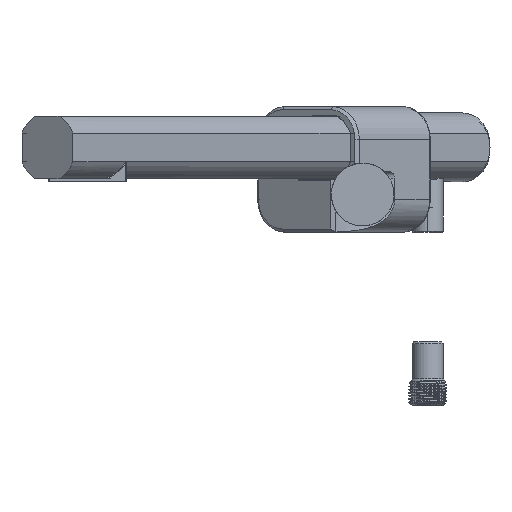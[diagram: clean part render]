
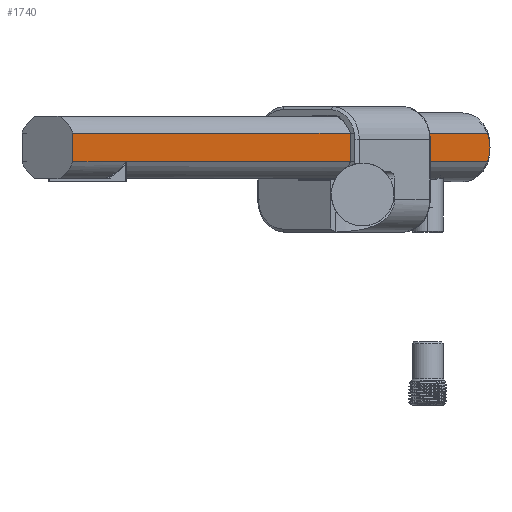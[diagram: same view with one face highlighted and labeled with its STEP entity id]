
A CAD part, front view. The second image highlights one B-rep face of the part: STEP entity #1740.
In plain terms, the highlighted planar face has unit normal (0.809, -0.588, 0) as drawn and (0, 0, 1) by its records, which use the part's own axes.
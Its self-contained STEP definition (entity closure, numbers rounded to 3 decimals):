
#107 = CARTESIAN_POINT ( 'NONE',  ( -3.852, -0.696, 10. ) ) ;
#188 = CARTESIAN_POINT ( 'NONE',  ( 11., -196.96, 10. ) ) ;
#399 = CARTESIAN_POINT ( 'NONE',  ( -4.583, -226.208, 10. ) ) ;
#664 = B_SPLINE_CURVE_WITH_KNOTS ( 'NONE', 3,
 ( #9787, #7631, #4454, #7483 ),
 .UNSPECIFIED., .F., .F.,
 ( 4, 4 ),
 ( 0., 0.005 ),
 .UNSPECIFIED. ) ;
#667 = ORIENTED_EDGE ( 'NONE', *, *, #4008, .F. ) ;
#801 = VERTEX_POINT ( 'NONE', #7747 ) ;
#838 = CARTESIAN_POINT ( 'NONE',  ( 4.583, -226.208, 10. ) ) ;
#1083 = DIRECTION ( 'NONE',  ( 0., 1., 0. ) ) ;
#1319 = VECTOR ( 'NONE', #1663, 1000. ) ;
#1591 = CARTESIAN_POINT ( 'NONE',  ( 0., 0., 10. ) ) ;
#1614 = CARTESIAN_POINT ( 'NONE',  ( 0., 0., 10. ) ) ;
#1628 = ORIENTED_EDGE ( 'NONE', *, *, #8019, .T. ) ;
#1663 = DIRECTION ( 'NONE',  ( 0., 1., 0. ) ) ;
#1740 = ADVANCED_FACE ( 'NONE', ( #6967 ), #4688, .T. ) ;
#1960 = VECTOR ( 'NONE', #1083, 1000. ) ;
#2040 = DIRECTION ( 'NONE',  ( 0., -1., 0. ) ) ;
#2092 = VECTOR ( 'NONE', #2641, 1000. ) ;
#2368 = VERTEX_POINT ( 'NONE', #6613 ) ;
#2378 = CARTESIAN_POINT ( 'NONE',  ( -4.583, -1., 10. ) ) ;
#2473 = LINE ( 'NONE', #7894, #1960 ) ;
#2636 = DIRECTION ( 'NONE',  ( -1., 0., 0. ) ) ;
#2641 = DIRECTION ( 'NONE',  ( 0., 1., 0. ) ) ;
#2774 = ORIENTED_EDGE ( 'NONE', *, *, #7926, .F. ) ;
#2785 = LINE ( 'NONE', #3582, #5427 ) ;
#2978 = CARTESIAN_POINT ( 'NONE',  ( 4.583, -1., 10. ) ) ;
#3080 = EDGE_CURVE ( 'NONE', #9535, #7373, #4754, .T. ) ;
#3168 = VECTOR ( 'NONE', #2636, 1000. ) ;
#3173 = ORIENTED_EDGE ( 'NONE', *, *, #6041, .T. ) ;
#3305 = CARTESIAN_POINT ( 'NONE',  ( 4.583, -294., 10. ) ) ;
#3309 = CARTESIAN_POINT ( 'NONE',  ( -4.583, -294., 10. ) ) ;
#3582 = CARTESIAN_POINT ( 'NONE',  ( 11., -197.578, 10. ) ) ;
#3702 = CARTESIAN_POINT ( 'NONE',  ( 4.583, -197.578, 10. ) ) ;
#3937 = LINE ( 'NONE', #6965, #1319 ) ;
#4008 = EDGE_CURVE ( 'NONE', #7696, #4213, #5620, .T. ) ;
#4086 = DIRECTION ( 'NONE',  ( 1., 0., 0. ) ) ;
#4113 = ORIENTED_EDGE ( 'NONE', *, *, #5410, .F. ) ;
#4133 = DIRECTION ( 'NONE',  ( 0., 0., 1. ) ) ;
#4199 = VERTEX_POINT ( 'NONE', #2978 ) ;
#4213 = VERTEX_POINT ( 'NONE', #6905 ) ;
#4268 = EDGE_CURVE ( 'NONE', #7464, #801, #6186, .T. ) ;
#4454 = CARTESIAN_POINT ( 'NONE',  ( 1.6, 0., 10. ) ) ;
#4615 = CARTESIAN_POINT ( 'NONE',  ( -3.099, -0.443, 10. ) ) ;
#4682 = EDGE_CURVE ( 'NONE', #9535, #2368, #2785, .T. ) ;
#4688 = PLANE ( 'NONE',  #9318 ) ;
#4754 = LINE ( 'NONE', #188, #9595 ) ;
#5160 = CARTESIAN_POINT ( 'NONE',  ( 11., -197.578, 10. ) ) ;
#5163 = ORIENTED_EDGE ( 'NONE', *, *, #4268, .T. ) ;
#5410 = EDGE_CURVE ( 'NONE', #4213, #801, #2473, .T. ) ;
#5427 = VECTOR ( 'NONE', #2040, 1000. ) ;
#5620 = LINE ( 'NONE', #399, #3168 ) ;
#5711 = LINE ( 'NONE', #3305, #2092 ) ;
#5746 = LINE ( 'NONE', #5160, #6979 ) ;
#5849 = EDGE_CURVE ( 'NONE', #7696, #9524, #3937, .T. ) ;
#6041 = EDGE_CURVE ( 'NONE', #7373, #4199, #5711, .T. ) ;
#6186 = B_SPLINE_CURVE_WITH_KNOTS ( 'NONE', 3,
 ( #1591, #9104, #8247, #4615, #107, #2378 ),
 .UNSPECIFIED., .F., .F.,
 ( 4, 2, 4 ),
 ( 0., 0.002, 0.005 ),
 .UNSPECIFIED. ) ;
#6613 = CARTESIAN_POINT ( 'NONE',  ( 11., -197.578, 10. ) ) ;
#6905 = CARTESIAN_POINT ( 'NONE',  ( -4.583, -226.208, 10. ) ) ;
#6965 = CARTESIAN_POINT ( 'NONE',  ( 4.583, -294., 10. ) ) ;
#6967 = FACE_OUTER_BOUND ( 'NONE', #9304, .T. ) ;
#6979 = VECTOR ( 'NONE', #8186, 1000. ) ;
#7227 = ORIENTED_EDGE ( 'NONE', *, *, #5849, .T. ) ;
#7373 = VERTEX_POINT ( 'NONE', #7862 ) ;
#7464 = VERTEX_POINT ( 'NONE', #1614 ) ;
#7483 = CARTESIAN_POINT ( 'NONE',  ( 0., 0., 10. ) ) ;
#7631 = CARTESIAN_POINT ( 'NONE',  ( 3.116, -0.389, 10. ) ) ;
#7687 = DIRECTION ( 'NONE',  ( -1., 0., 0. ) ) ;
#7696 = VERTEX_POINT ( 'NONE', #838 ) ;
#7747 = CARTESIAN_POINT ( 'NONE',  ( -4.583, -1., 10. ) ) ;
#7862 = CARTESIAN_POINT ( 'NONE',  ( 4.583, -196.96, 10. ) ) ;
#7894 = CARTESIAN_POINT ( 'NONE',  ( -4.583, -294., 10. ) ) ;
#7926 = EDGE_CURVE ( 'NONE', #2368, #9524, #5746, .T. ) ;
#8019 = EDGE_CURVE ( 'NONE', #4199, #7464, #664, .T. ) ;
#8186 = DIRECTION ( 'NONE',  ( -1., 0., 0. ) ) ;
#8247 = CARTESIAN_POINT ( 'NONE',  ( -1.571, -0.095, 10. ) ) ;
#8327 = CARTESIAN_POINT ( 'NONE',  ( 11., -196.96, 10. ) ) ;
#9074 = ORIENTED_EDGE ( 'NONE', *, *, #4682, .F. ) ;
#9104 = CARTESIAN_POINT ( 'NONE',  ( -0.794, 0., 10. ) ) ;
#9304 = EDGE_LOOP ( 'NONE', ( #667, #7227, #2774, #9074, #9387, #3173, #1628, #5163, #4113 ) ) ;
#9318 = AXIS2_PLACEMENT_3D ( 'NONE', #3309, #4133, #4086 ) ;
#9387 = ORIENTED_EDGE ( 'NONE', *, *, #3080, .T. ) ;
#9524 = VERTEX_POINT ( 'NONE', #3702 ) ;
#9535 = VERTEX_POINT ( 'NONE', #8327 ) ;
#9595 = VECTOR ( 'NONE', #7687, 1000. ) ;
#9787 = CARTESIAN_POINT ( 'NONE',  ( 4.583, -1., 10. ) ) ;
